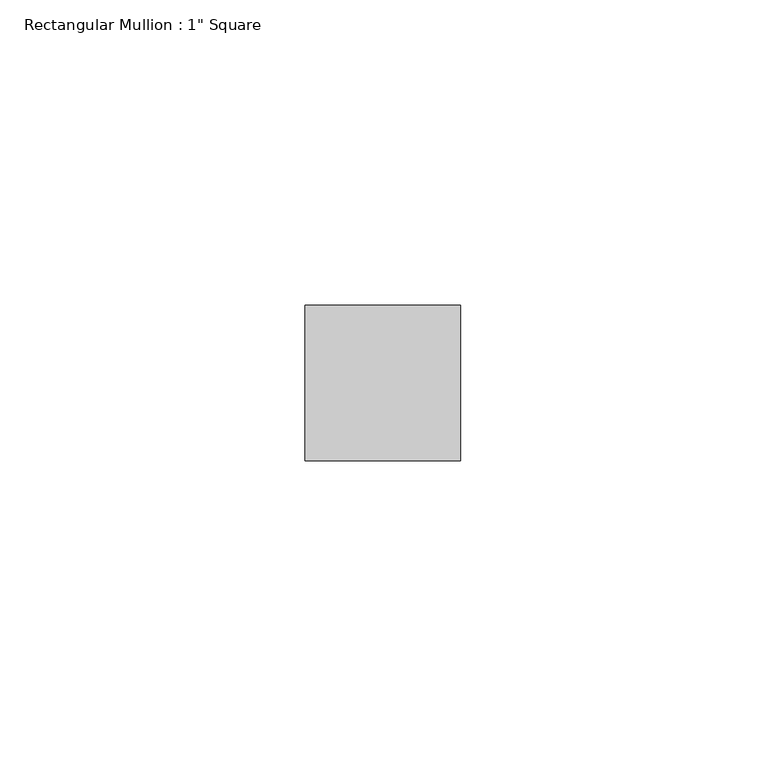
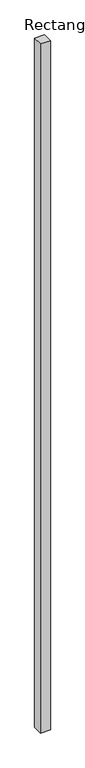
"""IFC4 building model written with IfcOpenShell, lengths in millimetres: member geometry."""

from ifc_helpers import new_model, si_unit, frame, origin, place, context, project, spatial, polyline, outline, extrude, source, transform, mapped, element, save


def member_1644e863(model_context):
    return source(origin(), model_context, "Body", "SweptSolid", [
        extrude(outline(polyline([(12.7, 12.7), (12.7, -12.7), (-12.7, -12.7), (-12.7, 12.7), (12.7, 12.7)])), frame((0.0, 0.0, -1865.4197192), z_axis=(0.0, 0.0, 1.0), x_axis=(1.0, 0.0, 0.0)), (0.0, 0.0, 1.0), 1865.4197192),
    ])


if __name__ == "__main__":
    model = new_model("IFC4")
    model_context = context("Model", 3, world=origin())
    ifc_project = project(units=[si_unit("LENGTHUNIT", "METRE", prefix="MILLI")], contexts=[model_context])
    site = spatial("IfcSite", under=ifc_project)
    building = spatial("IfcBuilding", under=site)
    placement = place(None, origin())
    member_shape = member_1644e863(model_context)
    element("IfcMember", 1, ObjectType="Rectangular Mullion : 1\" Square", at=placement, inside=building, context=model_context, shape_type="MappedRepresentation", body=[
        mapped(member_shape, transform((0.0, 0.0, 0.0), x_axis=(1.0, 0.0, 0.0), y_axis=(0.0, 1.0, 0.0), z_axis=(0.0, 0.0, 1.0))),
    ])
    save(model, "model.ifc")
